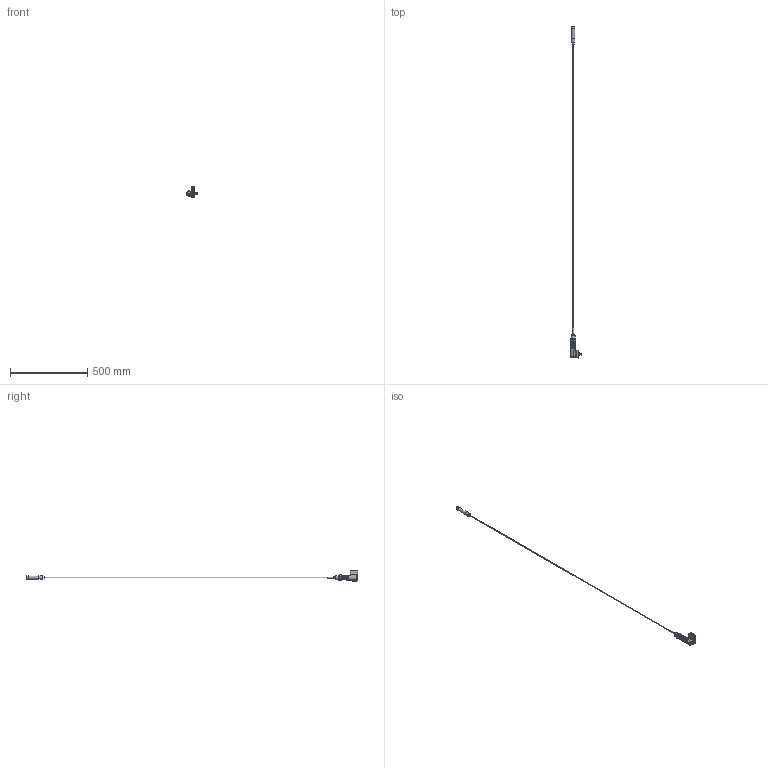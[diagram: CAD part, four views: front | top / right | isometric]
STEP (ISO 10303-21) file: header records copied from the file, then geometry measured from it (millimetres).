
FILE_DESCRIPTION((''),'2;1');
FILE_NAME('R:\Mekanisk design\HBLC-Wire\5. STEP files\HBLC-W-STEP-R10.stp','2013-12-09T08:36:52',('svj'),(''),'Autodesk Inventor 2013','Autodesk Inventor 2013','');
FILE_SCHEMA(('CONFIG_CONTROL_DESIGN'));
Length unit declared in the file: millimetre
Products named in the file (1): HBLC-W-STEP-R10
Bounding box: 70.75 x 2144.5 x 72 mm (x, y, z)
Volume: 170139.5 mm3; surface area: 135220.9 mm2
Topology: 1 solids, 34 shells, 1912 faces, 4764 edges, 2980 vertices
Faces by surface type: plane 994, cylinder 404, bspline 217, cone 207, torus 71, sphere 19
Full cylindrical faces by diameter (mm): 0.5 x2, 1 x16, 1.003 x1, 1.3 x1, 1.8 x1, 2 x3, 2.2 x1, 2.459 x2, 2.5 x1, 2.675 x1, 2.7 x2, 2.83 x1, 3 x3, 3.2 x1, 3.6 x3, 4 x19, 4.1 x1, 4.134 x1, 4.2 x1, 4.3 x4, 4.7 x1, 4.9 x1, 5 x4, 5.3 x1, 6 x1, 6.13 x1, 6.2 x1, 6.3 x1, 7 x2, 8 x1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
Entity records: 65719 total; most frequent: CARTESIAN_POINT 21504, ORIENTED_EDGE 8786, DIRECTION 8148, EDGE_CURVE 4393, AXIS2_PLACEMENT_3D 2909, VERTEX_POINT 2860, EDGE_LOOP 2360, VECTOR 2330
